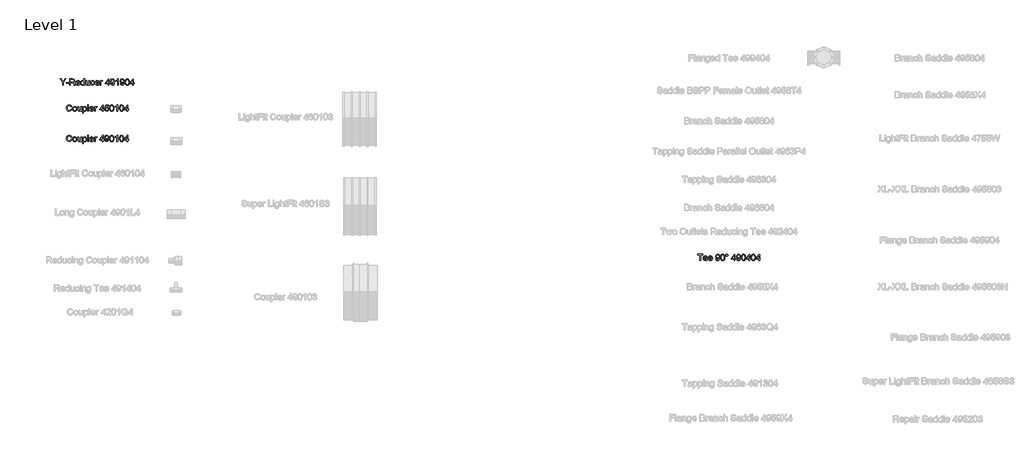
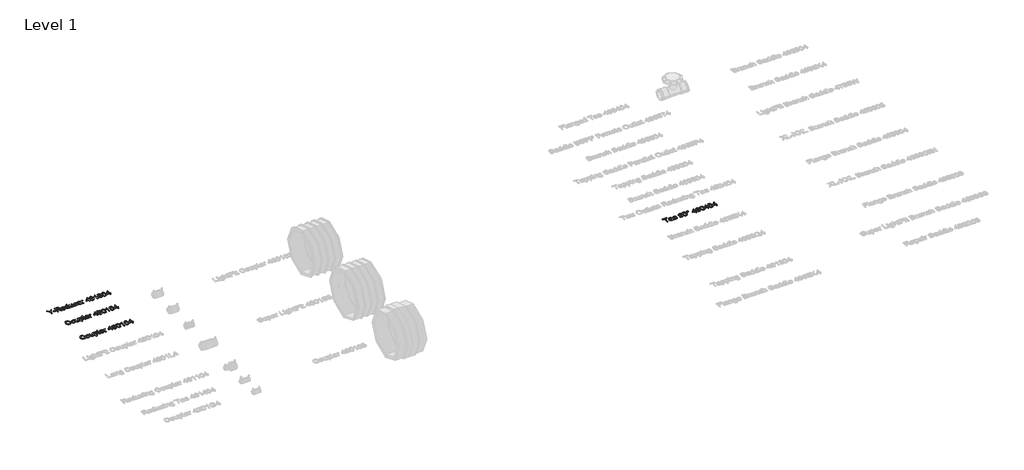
# One storey, part 7 of 41: 4 proxies.
"""IFC4 building model written with IfcOpenShell, lengths in millimetres."""

from ifc_helpers import new_model, si_unit, origin, origin_with_axes, place, context, project, spatial, polyline, outline, extrude, element, save

model = new_model("IFC4")

# Units and contexts
model_context = context("Model", 3, world=origin())
ifc_project = project(units=[si_unit("LENGTHUNIT", "METRE", prefix="MILLI")], contexts=[model_context])

# Site, building, storey
site = spatial("IfcSite", under=ifc_project)
building = spatial("IfcBuilding", under=site)
storey = spatial("IfcBuildingStorey", under=building, Name="Level 1", Elevation=0.0)

# Proxies
placement = place(None, origin())
element("IfcBuildingElementProxy", 1, Name="100 mm Arial", ObjectType="100 mm Arial", at=placement, inside=storey, context=model_context, shape_type="SweptSolid", body=[
    extrude(outline(polyline([(921.7356093, 4714.3643675), (921.7356093, 4739.3884059), (898.6586863, 4773.4412905), (907.3702247, 4773.4412905), (919.6875324, 4755.2537905), (925.990417, 4745.9797521), (932.3077247, 4755.9172521), (943.4856093, 4773.4412905), (952.1971478, 4773.4412905), (929.1202247, 4739.3884059), (929.1202247, 4714.3643675), (921.7356093, 4714.3643675)])), origin_with_axes(), (0.0, 0.0, 1.0), 5.0),
    extrude(outline(polyline([(954.0433016, 4731.902829), (954.0433016, 4739.2874444), (977.1202247, 4739.2874444), (977.1202247, 4731.902829), (954.0433016, 4731.902829)])), origin_with_axes(), (0.0, 0.0, 1.0), 5.0),
    extrude(outline(polyline([(986.3509939, 4714.3643675), (986.3509939, 4773.4412905), (1011.8077247, 4773.4412905), (1023.6274363, 4771.8475405), (1030.0889747, 4766.2081175), (1032.5048401, 4757.2730213), (1028.5024363, 4746.6287905), (1016.1346478, 4741.1335982), (1020.3317632, 4737.9749444), (1026.3173401, 4730.3739828), (1036.1683016, 4714.3643675), (1027.5865709, 4714.3643675), (1019.8990709, 4726.6095598), (1014.3461863, 4734.715329), (1010.4447439, 4738.5446559), (1006.9327247, 4739.9509059), (1002.6490709, 4740.2105213), (993.7356093, 4740.2105213), (993.7356093, 4714.3643675), (986.3509939, 4714.3643675)]), holes=[polyline([(993.7356093, 4747.5951367), (1010.2644555, 4747.5951367), (1018.6947439, 4748.6408098), (1023.4832055, 4751.9869636), (1025.1202247, 4756.9989828), (1021.9976286, 4763.5037905), (1012.1250324, 4766.0566752), (993.7356093, 4766.0566752), (993.7356093, 4747.5951367)])]), origin_with_axes(), (0.0, 0.0, 1.0), 5.0),
    extrude(outline(polyline([(1074.8798401, 4727.2874444), (1082.1202247, 4726.3643675), (1075.3485901, 4716.8307136), (1062.7356093, 4713.4412905), (1054.0709459, 4714.90343), (1047.4038786, 4719.2898482), (1043.1526766, 4726.3156896), (1041.7356093, 4735.6960982), (1043.1670997, 4745.3920117), (1047.4615709, 4752.6432136), (1054.0384939, 4757.1648482), (1062.3173401, 4758.6720598), (1070.3383738, 4757.168454), (1076.7476286, 4752.6576367), (1080.9501526, 4745.4208578), (1082.3509939, 4735.7393675), (1082.3077247, 4733.7489828), (1049.1202247, 4733.7489828), (1053.3678209, 4724.1576367), (1062.8798401, 4720.8259059), (1070.1202247, 4722.3691752), (1074.8798401, 4727.2874444)]), holes=[polyline([(1049.1202247, 4741.1335982), (1074.9663786, 4741.1335982), (1072.0096478, 4747.8259059), (1062.2884939, 4751.2874444), (1053.1947439, 4748.5254252), (1049.1202247, 4741.1335982)])]), origin_with_axes(), (0.0, 0.0, 1.0), 5.0),
    extrude(outline(polyline([(1116.5048401, 4714.3643675), (1116.5048401, 4721.3307136), (1111.6190228, 4715.4136463), (1104.865417, 4713.4412905), (1095.7211863, 4716.2970598), (1089.2596478, 4724.2658098), (1086.9663786, 4736.0134059), (1089.0793593, 4747.7682136), (1095.4110901, 4755.8595598), (1104.8365709, 4758.6720598), (1111.6442632, 4756.6600405), (1116.5048401, 4751.4316752), (1116.5048401, 4773.4412905), (1123.8894555, 4773.4412905), (1123.8894555, 4714.3643675), (1116.5048401, 4714.3643675)]), holes=[polyline([(1094.3509939, 4736.0422521), (1097.6827247, 4724.6119636), (1105.5433016, 4720.8259059), (1113.3101286, 4724.4388867), (1116.5048401, 4735.4797521), (1113.2524363, 4747.465329), (1105.240417, 4751.2874444), (1097.4663786, 4747.6167713), (1094.3509939, 4736.0422521)])]), origin_with_axes(), (0.0, 0.0, 1.0), 5.0),
    extrude(outline(polyline([(1162.6586863, 4714.3643675), (1162.6586863, 4721.8210982), (1156.8750324, 4715.5362425), (1149.3317632, 4713.4412905), (1142.3870516, 4714.9124444), (1137.5985901, 4718.6047521), (1135.3990709, 4724.0422521), (1134.9663786, 4730.9076367), (1134.9663786, 4757.7489828), (1142.3509939, 4757.7489828), (1142.3509939, 4734.3835982), (1142.7981093, 4726.8547521), (1145.7187824, 4722.434079), (1151.2211863, 4720.8259059), (1157.3870516, 4722.4701367), (1161.4615709, 4726.9485021), (1162.6586863, 4735.1768675), (1162.6586863, 4757.7489828), (1170.0433016, 4757.7489828), (1170.0433016, 4714.3643675), (1162.6586863, 4714.3643675)])), origin_with_axes(), (0.0, 0.0, 1.0), 5.0),
    extrude(outline(polyline([(1207.8894555, 4730.0566752), (1215.2740709, 4729.1335982), (1209.3461863, 4717.6023482), (1197.6346478, 4713.4412905), (1189.7794795, 4714.8926127), (1183.6370516, 4719.246579), (1179.6725084, 4726.3120838), (1178.3509939, 4735.8980213), (1180.6082055, 4748.1648482), (1187.4880132, 4756.0470598), (1197.5336863, 4758.6720598), (1208.7620516, 4755.0662905), (1214.3509939, 4744.8259059), (1206.9663786, 4743.902829), (1203.5408978, 4749.434079), (1197.5913786, 4751.2874444), (1189.0312824, 4747.6384059), (1185.7356093, 4736.0999444), (1188.959167, 4724.4533098), (1197.3894555, 4720.8259059), (1204.3485901, 4723.090329), (1207.8894555, 4730.0566752)])), origin_with_axes(), (0.0, 0.0, 1.0), 5.0),
    extrude(outline(polyline([(1252.1106093, 4727.2874444), (1259.3509939, 4726.3643675), (1252.5793593, 4716.8307136), (1239.9663786, 4713.4412905), (1231.3017151, 4714.90343), (1224.6346478, 4719.2898482), (1220.3834459, 4726.3156896), (1218.9663786, 4735.6960982), (1220.3978689, 4745.3920117), (1224.6923401, 4752.6432136), (1231.2692632, 4757.1648482), (1239.5481093, 4758.6720598), (1247.569143, 4757.168454), (1253.9783978, 4752.6576367), (1258.1809218, 4745.4208578), (1259.5817632, 4735.7393675), (1259.5384939, 4733.7489828), (1226.3509939, 4733.7489828), (1230.5985901, 4724.1576367), (1240.1106093, 4720.8259059), (1247.3509939, 4722.3691752), (1252.1106093, 4727.2874444)]), holes=[polyline([(1226.3509939, 4741.1335982), (1252.1971478, 4741.1335982), (1249.240417, 4747.8259059), (1239.5192632, 4751.2874444), (1230.4255132, 4748.5254252), (1226.3509939, 4741.1335982)])]), origin_with_axes(), (0.0, 0.0, 1.0), 5.0),
    extrude(outline(polyline([(1266.9663786, 4714.3643675), (1266.9663786, 4757.7489828), (1273.427917, 4757.7489828), (1273.427917, 4751.3307136), (1278.0144555, 4757.2441752), (1282.6298401, 4758.6720598), (1290.0433016, 4756.3932136), (1287.5769555, 4749.7730213), (1282.3846478, 4751.2874444), (1278.209167, 4749.8307136), (1275.5481093, 4745.7922521), (1274.3509939, 4737.1672521), (1274.3509939, 4714.3643675), (1266.9663786, 4714.3643675)])), origin_with_axes(), (0.0, 0.0, 1.0), 5.0),
    extrude(outline(polyline([(1339.8894555, 4714.3643675), (1339.8894555, 4728.2105213), (1313.1202247, 4728.2105213), (1313.1202247, 4735.5951367), (1341.7356093, 4772.5182136), (1347.2740709, 4772.5182136), (1347.2740709, 4735.5951367), (1354.6586863, 4735.5951367), (1354.6586863, 4728.2105213), (1347.2740709, 4728.2105213), (1347.2740709, 4714.3643675), (1339.8894555, 4714.3643675)]), holes=[polyline([(1339.8894555, 4735.5951367), (1339.8894555, 4758.4124444), (1322.2067632, 4735.5951367), (1339.8894555, 4735.5951367)])]), origin_with_axes(), (0.0, 0.0, 1.0), 5.0),
    extrude(outline(polyline([(1362.0433016, 4729.1335982), (1369.427917, 4730.0566752), (1372.7452247, 4723.0110021), (1379.0336863, 4720.8259059), (1385.0120516, 4722.2321559), (1389.0649363, 4725.9893675), (1391.4808016, 4732.4076367), (1392.5481093, 4740.9749444), (1386.5985901, 4736.8210982), (1378.5000324, 4734.6720598), (1366.1610901, 4739.9220598), (1361.1202247, 4753.7537905), (1366.4062824, 4768.0326367), (1379.6538786, 4773.4412905), (1390.1755132, 4770.3547521), (1397.4158978, 4761.5566752), (1399.8894555, 4745.027829), (1397.4231093, 4727.0927328), (1390.0889747, 4716.9316752), (1378.6875324, 4713.4412905), (1367.3365709, 4717.559079), (1362.0433016, 4729.1335982)]), holes=[polyline([(1392.5048401, 4753.9268675), (1389.3173401, 4762.7826367), (1380.8509939, 4766.0566752), (1371.9663786, 4762.5302328), (1368.5048401, 4753.3932136), (1371.7788786, 4745.2081175), (1380.6490709, 4742.0566752), (1389.1658978, 4745.2081175), (1392.5048401, 4753.9268675)])]), origin_with_axes(), (0.0, 0.0, 1.0), 5.0),
    extrude(outline(polyline([(1434.0433016, 4714.3643675), (1426.6586863, 4714.3643675), (1426.6586863, 4760.402829), (1419.6634939, 4755.4196559), (1411.8894555, 4751.6912905), (1411.8894555, 4758.6720598), (1422.7139747, 4765.5807136), (1429.2836863, 4773.4412905), (1434.0433016, 4773.4412905), (1434.0433016, 4714.3643675)])), origin_with_axes(), (0.0, 0.0, 1.0), 5.0),
    extrude(outline(polyline([(1452.5048401, 4729.1335982), (1459.8894555, 4730.0566752), (1463.2067632, 4723.0110021), (1469.4952247, 4720.8259059), (1475.4735901, 4722.2321559), (1479.5264747, 4725.9893675), (1481.9423401, 4732.4076367), (1483.0096478, 4740.9749444), (1477.0601286, 4736.8210982), (1468.9615709, 4734.6720598), (1456.6226286, 4739.9220598), (1451.5817632, 4753.7537905), (1456.8678209, 4768.0326367), (1470.115417, 4773.4412905), (1480.6370516, 4770.3547521), (1487.8774363, 4761.5566752), (1490.3509939, 4745.027829), (1487.8846478, 4727.0927328), (1480.5505132, 4716.9316752), (1469.1490709, 4713.4412905), (1457.7981093, 4717.559079), (1452.5048401, 4729.1335982)]), holes=[polyline([(1482.9663786, 4753.9268675), (1479.7788786, 4762.7826367), (1471.3125324, 4766.0566752), (1462.427917, 4762.5302328), (1458.9663786, 4753.3932136), (1462.240417, 4745.2081175), (1471.1106093, 4742.0566752), (1479.6274363, 4745.2081175), (1482.9663786, 4753.9268675)])]), origin_with_axes(), (0.0, 0.0, 1.0), 5.0),
    extrude(outline(polyline([(1496.8125324, 4743.4268675), (1498.9832055, 4760.4244636), (1505.4303209, 4770.2249444), (1516.1971478, 4773.4412905), (1524.8221478, 4771.5374444), (1530.7788786, 4766.0494636), (1534.240417, 4757.309079), (1535.5817632, 4743.4268675), (1533.4327247, 4726.5013867), (1527.0072439, 4716.6792713), (1516.1971478, 4713.4412905), (1508.5240709, 4714.8475405), (1502.6971478, 4719.0662905), (1498.2836863, 4729.0578771), (1496.8125324, 4743.4268675)]), holes=[polyline([(1504.1971478, 4743.4412905), (1507.6586863, 4725.1023482), (1516.1971478, 4720.8259059), (1524.7356093, 4725.1167713), (1528.1971478, 4743.4412905), (1524.8509939, 4761.5710982), (1516.1106093, 4766.0566752), (1507.7740709, 4762.1047521), (1504.1971478, 4743.4412905)])]), origin_with_axes(), (0.0, 0.0, 1.0), 5.0),
    extrude(outline(polyline([(1566.0433016, 4714.3643675), (1566.0433016, 4728.2105213), (1539.2740709, 4728.2105213), (1539.2740709, 4735.5951367), (1567.8894555, 4772.5182136), (1573.427917, 4772.5182136), (1573.427917, 4735.5951367), (1580.8125324, 4735.5951367), (1580.8125324, 4728.2105213), (1573.427917, 4728.2105213), (1573.427917, 4714.3643675), (1566.0433016, 4714.3643675)]), holes=[polyline([(1566.0433016, 4735.5951367), (1566.0433016, 4758.4124444), (1548.3606093, 4735.5951367), (1566.0433016, 4735.5951367)])]), origin_with_axes(), (0.0, 0.0, 1.0), 5.0),
])
element("IfcBuildingElementProxy", 2, Name="100 mm Arial", ObjectType="100 mm Arial", at=placement, inside=storey, context=model_context, shape_type="SweptSolid", body=[
    extrude(outline(polyline([(998.8125324, 4495.3643675), (1006.1971478, 4493.4605213), (997.4423401, 4478.5686944), (981.9808016, 4473.4412905), (966.6130132, 4477.3210982), (957.5985901, 4488.5566752), (954.5048401, 4504.3499444), (958.0024363, 4520.402829), (967.9471478, 4530.809079), (982.1394555, 4534.3643675), (996.9303209, 4529.7634059), (1005.2740709, 4516.8114828), (997.8894555, 4515.0518675), (991.8317632, 4524.1311944), (981.8509939, 4526.9797521), (970.2981093, 4523.8210982), (963.771667, 4515.340329), (961.8894555, 4504.3643675), (964.1178209, 4491.6432136), (971.0553209, 4483.5158098), (981.2452247, 4480.8259059), (992.5457055, 4484.4893675), (998.8125324, 4495.3643675)])), origin_with_axes(), (0.0, 0.0, 1.0), 5.0),
    extrude(outline(polyline([(1013.5817632, 4496.0566752), (1015.1791189, 4506.5170117), (1019.9711863, 4513.8691752), (1032.9808016, 4518.6720598), (1040.7386141, 4517.2099203), (1046.9351286, 4512.8235021), (1050.9970276, 4505.8589588), (1052.3509939, 4496.6624444), (1049.9567632, 4483.5230213), (1042.9832055, 4476.0879252), (1032.9808016, 4473.4412905), (1025.1292391, 4474.8980213), (1018.9399363, 4479.2682136), (1014.9213064, 4486.3787905), (1013.5817632, 4496.0566752)]), holes=[polyline([(1020.9663786, 4496.0710982), (1024.3846478, 4484.6263867), (1032.9808016, 4480.8259059), (1041.5481093, 4484.6480213), (1044.9663786, 4496.3018675), (1041.5264747, 4507.4869636), (1032.9808016, 4511.2874444), (1024.3846478, 4507.5013867), (1020.9663786, 4496.0710982)])]), origin_with_axes(), (0.0, 0.0, 1.0), 5.0),
    extrude(outline(polyline([(1088.3509939, 4474.3643675), (1088.3509939, 4481.8210982), (1082.5673401, 4475.5362425), (1075.0240709, 4473.4412905), (1068.0793593, 4474.9124444), (1063.2908978, 4478.6047521), (1061.0913786, 4484.0422521), (1060.6586863, 4490.9076367), (1060.6586863, 4517.7489828), (1068.0433016, 4517.7489828), (1068.0433016, 4494.3835982), (1068.490417, 4486.8547521), (1071.4110901, 4482.434079), (1076.9134939, 4480.8259059), (1083.0793593, 4482.4701367), (1087.1538786, 4486.9485021), (1088.3509939, 4495.1768675), (1088.3509939, 4517.7489828), (1095.7356093, 4517.7489828), (1095.7356093, 4474.3643675), (1088.3509939, 4474.3643675)])), origin_with_axes(), (0.0, 0.0, 1.0), 5.0),
    extrude(outline(polyline([(1105.8894555, 4457.7489828), (1105.8894555, 4517.7489828), (1113.2740709, 4517.7489828), (1113.2740709, 4510.5085982), (1118.3798401, 4516.6311944), (1125.2740709, 4518.6720598), (1134.6346478, 4515.8162905), (1140.7500324, 4507.7682136), (1142.8125324, 4496.3884059), (1140.4832055, 4484.4244636), (1133.7187824, 4476.2754252), (1124.3798401, 4473.4412905), (1117.9543593, 4475.3379252), (1113.2740709, 4480.1335982), (1113.2740709, 4457.7489828), (1105.8894555, 4457.7489828)]), holes=[polyline([(1113.2740709, 4495.7105213), (1116.4687824, 4484.4605213), (1124.2211863, 4480.8259059), (1132.1322439, 4484.590329), (1135.427917, 4496.2585982), (1132.2115709, 4507.5374444), (1124.5240709, 4511.2874444), (1116.6851286, 4507.2994636), (1113.2740709, 4495.7105213)])]), origin_with_axes(), (0.0, 0.0, 1.0), 5.0),
    extrude(outline(polyline([(1151.1202247, 4474.3643675), (1151.1202247, 4533.4412905), (1158.5048401, 4533.4412905), (1158.5048401, 4474.3643675), (1151.1202247, 4474.3643675)])), origin_with_axes(), (0.0, 0.0, 1.0), 5.0),
    extrude(outline(polyline([(1199.9567632, 4487.2874444), (1207.1971478, 4486.3643675), (1200.4255132, 4476.8307136), (1187.8125324, 4473.4412905), (1179.1478689, 4474.90343), (1172.4808016, 4479.2898482), (1168.2295997, 4486.3156896), (1166.8125324, 4495.6960982), (1168.2440228, 4505.3920117), (1172.5384939, 4512.6432136), (1179.115417, 4517.1648482), (1187.3942632, 4518.6720598), (1195.4152968, 4517.168454), (1201.8245516, 4512.6576367), (1206.0270757, 4505.4208578), (1207.427917, 4495.7393675), (1207.3846478, 4493.7489828), (1174.1971478, 4493.7489828), (1178.4447439, 4484.1576367), (1187.9567632, 4480.8259059), (1195.1971478, 4482.3691752), (1199.9567632, 4487.2874444)]), holes=[polyline([(1174.1971478, 4501.1335982), (1200.0433016, 4501.1335982), (1197.0865709, 4507.8259059), (1187.365417, 4511.2874444), (1178.271667, 4508.5254252), (1174.1971478, 4501.1335982)])]), origin_with_axes(), (0.0, 0.0, 1.0), 5.0),
    extrude(outline(polyline([(1214.8125324, 4474.3643675), (1214.8125324, 4517.7489828), (1221.2740709, 4517.7489828), (1221.2740709, 4511.3307136), (1225.8606093, 4517.2441752), (1230.4759939, 4518.6720598), (1237.8894555, 4516.3932136), (1235.4231093, 4509.7730213), (1230.2308016, 4511.2874444), (1226.0553209, 4509.8307136), (1223.3942632, 4505.7922521), (1222.1971478, 4497.1672521), (1222.1971478, 4474.3643675), (1214.8125324, 4474.3643675)])), origin_with_axes(), (0.0, 0.0, 1.0), 5.0),
    extrude(outline(polyline([(1287.7356093, 4474.3643675), (1287.7356093, 4488.2105213), (1260.9663786, 4488.2105213), (1260.9663786, 4495.5951367), (1289.5817632, 4532.5182136), (1295.1202247, 4532.5182136), (1295.1202247, 4495.5951367), (1302.5048401, 4495.5951367), (1302.5048401, 4488.2105213), (1295.1202247, 4488.2105213), (1295.1202247, 4474.3643675), (1287.7356093, 4474.3643675)]), holes=[polyline([(1287.7356093, 4495.5951367), (1287.7356093, 4518.4124444), (1270.052917, 4495.5951367), (1287.7356093, 4495.5951367)])]), origin_with_axes(), (0.0, 0.0, 1.0), 5.0),
    extrude(outline(polyline([(1308.9663786, 4490.0566752), (1316.3509939, 4490.9797521), (1320.0721478, 4483.371579), (1327.7884939, 4480.8259059), (1337.0481093, 4484.3667713), (1340.3509939, 4493.7634059), (1337.2572439, 4502.5326367), (1327.9038786, 4505.7489828), (1321.4207055, 4504.465329), (1317.2740709, 4501.1335982), (1309.8894555, 4502.0566752), (1316.3509939, 4532.5182136), (1344.9663786, 4532.5182136), (1344.9663786, 4525.1335982), (1322.3221478, 4525.1335982), (1319.1634939, 4508.8643675), (1329.9663786, 4513.1335982), (1342.5937824, 4507.840329), (1347.7356093, 4494.2249444), (1343.1058016, 4480.5230213), (1336.4567632, 4475.2117232), (1327.7596478, 4473.4412905), (1314.7283978, 4477.9917713), (1308.9663786, 4490.0566752)])), origin_with_axes(), (0.0, 0.0, 1.0), 5.0),
    extrude(outline(polyline([(1354.1971478, 4503.4268675), (1356.3678209, 4520.4244636), (1362.8149363, 4530.2249444), (1373.5817632, 4533.4412905), (1382.2067632, 4531.5374444), (1388.1634939, 4526.0494636), (1391.6250324, 4517.309079), (1392.9663786, 4503.4268675), (1390.8173401, 4486.5013867), (1384.3918593, 4476.6792713), (1373.5817632, 4473.4412905), (1365.9086863, 4474.8475405), (1360.0817632, 4479.0662905), (1355.6683016, 4489.0578771), (1354.1971478, 4503.4268675)]), holes=[polyline([(1361.5817632, 4503.4412905), (1365.0433016, 4485.1023482), (1373.5817632, 4480.8259059), (1382.1202247, 4485.1167713), (1385.5817632, 4503.4412905), (1382.2356093, 4521.5710982), (1373.4952247, 4526.0566752), (1365.1586863, 4522.1047521), (1361.5817632, 4503.4412905)])]), origin_with_axes(), (0.0, 0.0, 1.0), 5.0),
    extrude(outline(polyline([(1427.1202247, 4474.3643675), (1419.7356093, 4474.3643675), (1419.7356093, 4520.402829), (1412.740417, 4515.4196559), (1404.9663786, 4511.6912905), (1404.9663786, 4518.6720598), (1415.7908978, 4525.5807136), (1422.3606093, 4533.4412905), (1427.1202247, 4533.4412905), (1427.1202247, 4474.3643675)])), origin_with_axes(), (0.0, 0.0, 1.0), 5.0),
    extrude(outline(polyline([(1444.6586863, 4503.4268675), (1446.8293593, 4520.4244636), (1453.2764747, 4530.2249444), (1464.0433016, 4533.4412905), (1472.6683016, 4531.5374444), (1478.6250324, 4526.0494636), (1482.0865709, 4517.309079), (1483.427917, 4503.4268675), (1481.2788786, 4486.5013867), (1474.8533978, 4476.6792713), (1464.0433016, 4473.4412905), (1456.3702247, 4474.8475405), (1450.5433016, 4479.0662905), (1446.1298401, 4489.0578771), (1444.6586863, 4503.4268675)]), holes=[polyline([(1452.0433016, 4503.4412905), (1455.5048401, 4485.1023482), (1464.0433016, 4480.8259059), (1472.5817632, 4485.1167713), (1476.0433016, 4503.4412905), (1472.6971478, 4521.5710982), (1463.9567632, 4526.0566752), (1455.6202247, 4522.1047521), (1452.0433016, 4503.4412905)])]), origin_with_axes(), (0.0, 0.0, 1.0), 5.0),
    extrude(outline(polyline([(1513.8894555, 4474.3643675), (1513.8894555, 4488.2105213), (1487.1202247, 4488.2105213), (1487.1202247, 4495.5951367), (1515.7356093, 4532.5182136), (1521.2740709, 4532.5182136), (1521.2740709, 4495.5951367), (1528.6586863, 4495.5951367), (1528.6586863, 4488.2105213), (1521.2740709, 4488.2105213), (1521.2740709, 4474.3643675), (1513.8894555, 4474.3643675)]), holes=[polyline([(1513.8894555, 4495.5951367), (1513.8894555, 4518.4124444), (1496.2067632, 4495.5951367), (1513.8894555, 4495.5951367)])]), origin_with_axes(), (0.0, 0.0, 1.0), 5.0),
])
element("IfcBuildingElementProxy", 3, Name="100 mm Arial", ObjectType="100 mm Arial", at=placement, inside=storey, context=model_context, shape_type="SweptSolid", body=[
    extrude(outline(polyline([(998.8125324, 4215.3643675), (1006.1971478, 4213.4605213), (997.4423401, 4198.5686944), (981.9808016, 4193.4412905), (966.6130132, 4197.3210982), (957.5985901, 4208.5566752), (954.5048401, 4224.3499444), (958.0024363, 4240.402829), (967.9471478, 4250.809079), (982.1394555, 4254.3643675), (996.9303209, 4249.7634059), (1005.2740709, 4236.8114828), (997.8894555, 4235.0518675), (991.8317632, 4244.1311944), (981.8509939, 4246.9797521), (970.2981093, 4243.8210982), (963.771667, 4235.340329), (961.8894555, 4224.3643675), (964.1178209, 4211.6432136), (971.0553209, 4203.5158098), (981.2452247, 4200.8259059), (992.5457055, 4204.4893675), (998.8125324, 4215.3643675)])), origin_with_axes(), (0.0, 0.0, 1.0), 5.0),
    extrude(outline(polyline([(1013.5817632, 4216.0566752), (1015.1791189, 4226.5170117), (1019.9711863, 4233.8691752), (1032.9808016, 4238.6720598), (1040.7386141, 4237.2099203), (1046.9351286, 4232.8235021), (1050.9970276, 4225.8589588), (1052.3509939, 4216.6624444), (1049.9567632, 4203.5230213), (1042.9832055, 4196.0879252), (1032.9808016, 4193.4412905), (1025.1292391, 4194.8980213), (1018.9399363, 4199.2682136), (1014.9213064, 4206.3787905), (1013.5817632, 4216.0566752)]), holes=[polyline([(1020.9663786, 4216.0710982), (1024.3846478, 4204.6263867), (1032.9808016, 4200.8259059), (1041.5481093, 4204.6480213), (1044.9663786, 4216.3018675), (1041.5264747, 4227.4869636), (1032.9808016, 4231.2874444), (1024.3846478, 4227.5013867), (1020.9663786, 4216.0710982)])]), origin_with_axes(), (0.0, 0.0, 1.0), 5.0),
    extrude(outline(polyline([(1088.3509939, 4194.3643675), (1088.3509939, 4201.8210982), (1082.5673401, 4195.5362425), (1075.0240709, 4193.4412905), (1068.0793593, 4194.9124444), (1063.2908978, 4198.6047521), (1061.0913786, 4204.0422521), (1060.6586863, 4210.9076367), (1060.6586863, 4237.7489828), (1068.0433016, 4237.7489828), (1068.0433016, 4214.3835982), (1068.490417, 4206.8547521), (1071.4110901, 4202.434079), (1076.9134939, 4200.8259059), (1083.0793593, 4202.4701367), (1087.1538786, 4206.9485021), (1088.3509939, 4215.1768675), (1088.3509939, 4237.7489828), (1095.7356093, 4237.7489828), (1095.7356093, 4194.3643675), (1088.3509939, 4194.3643675)])), origin_with_axes(), (0.0, 0.0, 1.0), 5.0),
    extrude(outline(polyline([(1105.8894555, 4177.7489828), (1105.8894555, 4237.7489828), (1113.2740709, 4237.7489828), (1113.2740709, 4230.5085982), (1118.3798401, 4236.6311944), (1125.2740709, 4238.6720598), (1134.6346478, 4235.8162905), (1140.7500324, 4227.7682136), (1142.8125324, 4216.3884059), (1140.4832055, 4204.4244636), (1133.7187824, 4196.2754252), (1124.3798401, 4193.4412905), (1117.9543593, 4195.3379252), (1113.2740709, 4200.1335982), (1113.2740709, 4177.7489828), (1105.8894555, 4177.7489828)]), holes=[polyline([(1113.2740709, 4215.7105213), (1116.4687824, 4204.4605213), (1124.2211863, 4200.8259059), (1132.1322439, 4204.590329), (1135.427917, 4216.2585982), (1132.2115709, 4227.5374444), (1124.5240709, 4231.2874444), (1116.6851286, 4227.2994636), (1113.2740709, 4215.7105213)])]), origin_with_axes(), (0.0, 0.0, 1.0), 5.0),
    extrude(outline(polyline([(1151.1202247, 4194.3643675), (1151.1202247, 4253.4412905), (1158.5048401, 4253.4412905), (1158.5048401, 4194.3643675), (1151.1202247, 4194.3643675)])), origin_with_axes(), (0.0, 0.0, 1.0), 5.0),
    extrude(outline(polyline([(1199.9567632, 4207.2874444), (1207.1971478, 4206.3643675), (1200.4255132, 4196.8307136), (1187.8125324, 4193.4412905), (1179.1478689, 4194.90343), (1172.4808016, 4199.2898482), (1168.2295997, 4206.3156896), (1166.8125324, 4215.6960982), (1168.2440228, 4225.3920117), (1172.5384939, 4232.6432136), (1179.115417, 4237.1648482), (1187.3942632, 4238.6720598), (1195.4152968, 4237.168454), (1201.8245516, 4232.6576367), (1206.0270757, 4225.4208578), (1207.427917, 4215.7393675), (1207.3846478, 4213.7489828), (1174.1971478, 4213.7489828), (1178.4447439, 4204.1576367), (1187.9567632, 4200.8259059), (1195.1971478, 4202.3691752), (1199.9567632, 4207.2874444)]), holes=[polyline([(1174.1971478, 4221.1335982), (1200.0433016, 4221.1335982), (1197.0865709, 4227.8259059), (1187.365417, 4231.2874444), (1178.271667, 4228.5254252), (1174.1971478, 4221.1335982)])]), origin_with_axes(), (0.0, 0.0, 1.0), 5.0),
    extrude(outline(polyline([(1214.8125324, 4194.3643675), (1214.8125324, 4237.7489828), (1221.2740709, 4237.7489828), (1221.2740709, 4231.3307136), (1225.8606093, 4237.2441752), (1230.4759939, 4238.6720598), (1237.8894555, 4236.3932136), (1235.4231093, 4229.7730213), (1230.2308016, 4231.2874444), (1226.0553209, 4229.8307136), (1223.3942632, 4225.7922521), (1222.1971478, 4217.1672521), (1222.1971478, 4194.3643675), (1214.8125324, 4194.3643675)])), origin_with_axes(), (0.0, 0.0, 1.0), 5.0),
    extrude(outline(polyline([(1287.7356093, 4194.3643675), (1287.7356093, 4208.2105213), (1260.9663786, 4208.2105213), (1260.9663786, 4215.5951367), (1289.5817632, 4252.5182136), (1295.1202247, 4252.5182136), (1295.1202247, 4215.5951367), (1302.5048401, 4215.5951367), (1302.5048401, 4208.2105213), (1295.1202247, 4208.2105213), (1295.1202247, 4194.3643675), (1287.7356093, 4194.3643675)]), holes=[polyline([(1287.7356093, 4215.5951367), (1287.7356093, 4238.4124444), (1270.052917, 4215.5951367), (1287.7356093, 4215.5951367)])]), origin_with_axes(), (0.0, 0.0, 1.0), 5.0),
    extrude(outline(polyline([(1309.8894555, 4209.1335982), (1317.2740709, 4210.0566752), (1320.5913786, 4203.0110021), (1326.8798401, 4200.8259059), (1332.8582055, 4202.2321559), (1336.9110901, 4205.9893675), (1339.3269555, 4212.4076367), (1340.3942632, 4220.9749444), (1334.4447439, 4216.8210982), (1326.3461863, 4214.6720598), (1314.0072439, 4219.9220598), (1308.9663786, 4233.7537905), (1314.2524363, 4248.0326367), (1327.5000324, 4253.4412905), (1338.021667, 4250.3547521), (1345.2620516, 4241.5566752), (1347.7356093, 4225.027829), (1345.2692632, 4207.0927328), (1337.9351286, 4196.9316752), (1326.5336863, 4193.4412905), (1315.1827247, 4197.559079), (1309.8894555, 4209.1335982)]), holes=[polyline([(1340.3509939, 4233.9268675), (1337.1634939, 4242.7826367), (1328.6971478, 4246.0566752), (1319.8125324, 4242.5302328), (1316.3509939, 4233.3932136), (1319.6250324, 4225.2081175), (1328.4952247, 4222.0566752), (1337.0120516, 4225.2081175), (1340.3509939, 4233.9268675)])]), origin_with_axes(), (0.0, 0.0, 1.0), 5.0),
    extrude(outline(polyline([(1354.1971478, 4223.4268675), (1356.3678209, 4240.4244636), (1362.8149363, 4250.2249444), (1373.5817632, 4253.4412905), (1382.2067632, 4251.5374444), (1388.1634939, 4246.0494636), (1391.6250324, 4237.309079), (1392.9663786, 4223.4268675), (1390.8173401, 4206.5013867), (1384.3918593, 4196.6792713), (1373.5817632, 4193.4412905), (1365.9086863, 4194.8475405), (1360.0817632, 4199.0662905), (1355.6683016, 4209.0578771), (1354.1971478, 4223.4268675)]), holes=[polyline([(1361.5817632, 4223.4412905), (1365.0433016, 4205.1023482), (1373.5817632, 4200.8259059), (1382.1202247, 4205.1167713), (1385.5817632, 4223.4412905), (1382.2356093, 4241.5710982), (1373.4952247, 4246.0566752), (1365.1586863, 4242.1047521), (1361.5817632, 4223.4412905)])]), origin_with_axes(), (0.0, 0.0, 1.0), 5.0),
    extrude(outline(polyline([(1427.1202247, 4194.3643675), (1419.7356093, 4194.3643675), (1419.7356093, 4240.402829), (1412.740417, 4235.4196559), (1404.9663786, 4231.6912905), (1404.9663786, 4238.6720598), (1415.7908978, 4245.5807136), (1422.3606093, 4253.4412905), (1427.1202247, 4253.4412905), (1427.1202247, 4194.3643675)])), origin_with_axes(), (0.0, 0.0, 1.0), 5.0),
    extrude(outline(polyline([(1444.6586863, 4223.4268675), (1446.8293593, 4240.4244636), (1453.2764747, 4250.2249444), (1464.0433016, 4253.4412905), (1472.6683016, 4251.5374444), (1478.6250324, 4246.0494636), (1482.0865709, 4237.309079), (1483.427917, 4223.4268675), (1481.2788786, 4206.5013867), (1474.8533978, 4196.6792713), (1464.0433016, 4193.4412905), (1456.3702247, 4194.8475405), (1450.5433016, 4199.0662905), (1446.1298401, 4209.0578771), (1444.6586863, 4223.4268675)]), holes=[polyline([(1452.0433016, 4223.4412905), (1455.5048401, 4205.1023482), (1464.0433016, 4200.8259059), (1472.5817632, 4205.1167713), (1476.0433016, 4223.4412905), (1472.6971478, 4241.5710982), (1463.9567632, 4246.0566752), (1455.6202247, 4242.1047521), (1452.0433016, 4223.4412905)])]), origin_with_axes(), (0.0, 0.0, 1.0), 5.0),
    extrude(outline(polyline([(1513.8894555, 4194.3643675), (1513.8894555, 4208.2105213), (1487.1202247, 4208.2105213), (1487.1202247, 4215.5951367), (1515.7356093, 4252.5182136), (1521.2740709, 4252.5182136), (1521.2740709, 4215.5951367), (1528.6586863, 4215.5951367), (1528.6586863, 4208.2105213), (1521.2740709, 4208.2105213), (1521.2740709, 4194.3643675), (1513.8894555, 4194.3643675)]), holes=[polyline([(1513.8894555, 4215.5951367), (1513.8894555, 4238.4124444), (1496.2067632, 4215.5951367), (1513.8894555, 4215.5951367)])]), origin_with_axes(), (0.0, 0.0, 1.0), 5.0),
])
element("IfcBuildingElementProxy", 4, Name="100 mm Arial", ObjectType="100 mm Arial", at=placement, inside=storey, context=model_context, shape_type="SweptSolid", body=[
    extrude(outline(polyline([(6789.8269995, 3097.5779735), (6789.8269995, 3149.2702812), (6770.4423841, 3149.2702812), (6770.4423841, 3156.6548966), (6816.5962303, 3156.6548966), (6816.5962303, 3149.2702812), (6797.2116149, 3149.2702812), (6797.2116149, 3097.5779735), (6789.8269995, 3097.5779735)])), origin_with_axes(), (0.0, 0.0, 1.0), 5.0),
    extrude(outline(polyline([(6854.3558456, 3110.5010505), (6861.5962303, 3109.5779735), (6854.8245956, 3100.0443197), (6842.2116149, 3096.6548966), (6833.5469514, 3098.117036), (6826.8798841, 3102.5034543), (6822.6286822, 3109.5292957), (6821.2116149, 3118.9097043), (6822.6431053, 3128.6056178), (6826.9375764, 3135.8568197), (6833.5144995, 3140.3784543), (6841.7933456, 3141.8856658), (6849.8143793, 3140.3820601), (6856.2236341, 3135.8712428), (6860.4261581, 3128.6344639), (6861.8269995, 3118.9529735), (6861.7837303, 3116.9625889), (6828.5962303, 3116.9625889), (6832.8438264, 3107.3712428), (6842.3558456, 3104.039512), (6849.5962303, 3105.5827812), (6854.3558456, 3110.5010505)]), holes=[polyline([(6828.5962303, 3124.3472043), (6854.4423841, 3124.3472043), (6851.4856533, 3131.039512), (6841.7644995, 3134.5010505), (6832.6707495, 3131.7390312), (6828.5962303, 3124.3472043)])]), origin_with_axes(), (0.0, 0.0, 1.0), 5.0),
    extrude(outline(polyline([(6899.5866149, 3110.5010505), (6906.8269995, 3109.5779735), (6900.0553649, 3100.0443197), (6887.4423841, 3096.6548966), (6878.7777206, 3098.117036), (6872.1106533, 3102.5034543), (6867.8594514, 3109.5292957), (6866.4423841, 3118.9097043), (6867.8738745, 3128.6056178), (6872.1683456, 3135.8568197), (6878.7452687, 3140.3784543), (6887.0241149, 3141.8856658), (6895.0451485, 3140.3820601), (6901.4544033, 3135.8712428), (6905.6569274, 3128.6344639), (6907.0577687, 3118.9529735), (6907.0144995, 3116.9625889), (6873.8269995, 3116.9625889), (6878.0745956, 3107.3712428), (6887.5866149, 3104.039512), (6894.8269995, 3105.5827812), (6899.5866149, 3110.5010505)]), holes=[polyline([(6873.8269995, 3124.3472043), (6899.6731533, 3124.3472043), (6896.7164226, 3131.039512), (6886.9952687, 3134.5010505), (6877.9015187, 3131.7390312), (6873.8269995, 3124.3472043)])]), origin_with_axes(), (0.0, 0.0, 1.0), 5.0),
    extrude(outline(polyline([(6936.5962303, 3112.3472043), (6943.9808456, 3113.2702812), (6947.2981533, 3106.2246082), (6953.5866149, 3104.039512), (6959.5649803, 3105.445762), (6963.6178649, 3109.2029735), (6966.0337303, 3115.6212428), (6967.101038, 3124.1885505), (6961.1515187, 3120.0347043), (6953.052961, 3117.8856658), (6940.7140187, 3123.1356658), (6935.6731533, 3136.9673966), (6940.959211, 3151.2462428), (6954.2068072, 3156.6548966), (6964.7284418, 3153.5683582), (6971.9688264, 3144.7702812), (6974.4423841, 3128.2414351), (6971.976038, 3110.3063389), (6964.6419033, 3100.1452812), (6953.240461, 3096.6548966), (6941.8894995, 3100.7726851), (6936.5962303, 3112.3472043)]), holes=[polyline([(6967.0577687, 3137.1404735), (6963.8702687, 3145.9962428), (6955.4039226, 3149.2702812), (6946.5193072, 3145.7438389), (6943.0577687, 3136.6068197), (6946.3318072, 3128.4217235), (6955.2019995, 3125.2702812), (6963.7188264, 3128.4217235), (6967.0577687, 3137.1404735)])]), origin_with_axes(), (0.0, 0.0, 1.0), 5.0),
    extrude(outline(polyline([(6980.9039226, 3126.6404735), (6983.0745956, 3143.6380697), (6989.521711, 3153.4385505), (7000.288538, 3156.6548966), (7008.913538, 3154.7510505), (7014.8702687, 3149.2630697), (7018.3318072, 3140.5226851), (7019.6731533, 3126.6404735), (7017.5241149, 3109.7149928), (7011.0986341, 3099.8928774), (7000.288538, 3096.6548966), (6992.615461, 3098.0611466), (6986.788538, 3102.2798966), (6982.3750764, 3112.2714832), (6980.9039226, 3126.6404735)]), holes=[polyline([(6988.288538, 3126.6548966), (6991.7500764, 3108.3159543), (7000.288538, 3104.039512), (7008.8269995, 3108.3303774), (7012.288538, 3126.6548966), (7008.9423841, 3144.7847043), (7000.2019995, 3149.2702812), (6991.865461, 3145.3183582), (6988.288538, 3126.6548966)])]), origin_with_axes(), (0.0, 0.0, 1.0), 5.0),
    extrude(outline(polyline([(7027.9808456, 3146.5154735), (7031.2332495, 3154.3472043), (7039.0433456, 3157.5779735), (7046.9039226, 3154.3472043), (7050.1346918, 3146.5154735), (7046.882288, 3138.6765312), (7039.0433456, 3135.4241274), (7031.2332495, 3138.6548966), (7027.9808456, 3146.5154735)]), holes=[polyline([(7032.5962303, 3146.5010505), (7034.4928649, 3141.9289351), (7039.0721918, 3140.039512), (7043.6226726, 3141.9289351), (7045.5193072, 3146.5010505), (7043.6226726, 3151.0731658), (7039.0721918, 3152.9625889), (7034.4928649, 3151.0731658), (7032.5962303, 3146.5010505)])]), origin_with_axes(), (0.0, 0.0, 1.0), 5.0),
    extrude(outline(polyline([(7106.4423841, 3097.5779735), (7106.4423841, 3111.4241274), (7079.6731533, 3111.4241274), (7079.6731533, 3118.8087428), (7108.288538, 3155.7318197), (7113.8269995, 3155.7318197), (7113.8269995, 3118.8087428), (7121.2116149, 3118.8087428), (7121.2116149, 3111.4241274), (7113.8269995, 3111.4241274), (7113.8269995, 3097.5779735), (7106.4423841, 3097.5779735)]), holes=[polyline([(7106.4423841, 3118.8087428), (7106.4423841, 3141.6260505), (7088.7596918, 3118.8087428), (7106.4423841, 3118.8087428)])]), origin_with_axes(), (0.0, 0.0, 1.0), 5.0),
    extrude(outline(polyline([(7128.5962303, 3112.3472043), (7135.9808456, 3113.2702812), (7139.2981533, 3106.2246082), (7145.5866149, 3104.039512), (7151.5649803, 3105.445762), (7155.6178649, 3109.2029735), (7158.0337303, 3115.6212428), (7159.101038, 3124.1885505), (7153.1515187, 3120.0347043), (7145.052961, 3117.8856658), (7132.7140187, 3123.1356658), (7127.6731533, 3136.9673966), (7132.959211, 3151.2462428), (7146.2068072, 3156.6548966), (7156.7284418, 3153.5683582), (7163.9688264, 3144.7702812), (7166.4423841, 3128.2414351), (7163.976038, 3110.3063389), (7156.6419033, 3100.1452812), (7145.240461, 3096.6548966), (7133.8894995, 3100.7726851), (7128.5962303, 3112.3472043)]), holes=[polyline([(7159.0577687, 3137.1404735), (7155.8702687, 3145.9962428), (7147.4039226, 3149.2702812), (7138.5193072, 3145.7438389), (7135.0577687, 3136.6068197), (7138.3318072, 3128.4217235), (7147.2019995, 3125.2702812), (7155.7188264, 3128.4217235), (7159.0577687, 3137.1404735)])]), origin_with_axes(), (0.0, 0.0, 1.0), 5.0),
    extrude(outline(polyline([(7172.9039226, 3126.6404735), (7175.0745956, 3143.6380697), (7181.521711, 3153.4385505), (7192.288538, 3156.6548966), (7200.913538, 3154.7510505), (7206.8702687, 3149.2630697), (7210.3318072, 3140.5226851), (7211.6731533, 3126.6404735), (7209.5241149, 3109.7149928), (7203.0986341, 3099.8928774), (7192.288538, 3096.6548966), (7184.615461, 3098.0611466), (7178.788538, 3102.2798966), (7174.3750764, 3112.2714832), (7172.9039226, 3126.6404735)]), holes=[polyline([(7180.288538, 3126.6548966), (7183.7500764, 3108.3159543), (7192.288538, 3104.039512), (7200.8269995, 3108.3303774), (7204.288538, 3126.6548966), (7200.9423841, 3144.7847043), (7192.2019995, 3149.2702812), (7183.865461, 3145.3183582), (7180.288538, 3126.6548966)])]), origin_with_axes(), (0.0, 0.0, 1.0), 5.0),
    extrude(outline(polyline([(7242.1346918, 3097.5779735), (7242.1346918, 3111.4241274), (7215.365461, 3111.4241274), (7215.365461, 3118.8087428), (7243.9808456, 3155.7318197), (7249.5193072, 3155.7318197), (7249.5193072, 3118.8087428), (7256.9039226, 3118.8087428), (7256.9039226, 3111.4241274), (7249.5193072, 3111.4241274), (7249.5193072, 3097.5779735), (7242.1346918, 3097.5779735)]), holes=[polyline([(7242.1346918, 3118.8087428), (7242.1346918, 3141.6260505), (7224.4519995, 3118.8087428), (7242.1346918, 3118.8087428)])]), origin_with_axes(), (0.0, 0.0, 1.0), 5.0),
    extrude(outline(polyline([(7263.365461, 3126.6404735), (7265.5361341, 3143.6380697), (7271.9832495, 3153.4385505), (7282.7500764, 3156.6548966), (7291.3750764, 3154.7510505), (7297.3318072, 3149.2630697), (7300.7933456, 3140.5226851), (7302.1346918, 3126.6404735), (7299.9856533, 3109.7149928), (7293.5601726, 3099.8928774), (7282.7500764, 3096.6548966), (7275.0769995, 3098.0611466), (7269.2500764, 3102.2798966), (7264.8366149, 3112.2714832), (7263.365461, 3126.6404735)]), holes=[polyline([(7270.7500764, 3126.6548966), (7274.2116149, 3108.3159543), (7282.7500764, 3104.039512), (7291.288538, 3108.3303774), (7294.7500764, 3126.6548966), (7291.4039226, 3144.7847043), (7282.663538, 3149.2702812), (7274.3269995, 3145.3183582), (7270.7500764, 3126.6548966)])]), origin_with_axes(), (0.0, 0.0, 1.0), 5.0),
    extrude(outline(polyline([(7332.5962303, 3097.5779735), (7332.5962303, 3111.4241274), (7305.8269995, 3111.4241274), (7305.8269995, 3118.8087428), (7334.4423841, 3155.7318197), (7339.9808456, 3155.7318197), (7339.9808456, 3118.8087428), (7347.365461, 3118.8087428), (7347.365461, 3111.4241274), (7339.9808456, 3111.4241274), (7339.9808456, 3097.5779735), (7332.5962303, 3097.5779735)]), holes=[polyline([(7332.5962303, 3118.8087428), (7332.5962303, 3141.6260505), (7314.913538, 3118.8087428), (7332.5962303, 3118.8087428)])]), origin_with_axes(), (0.0, 0.0, 1.0), 5.0),
])

save(model, "model.ifc")
